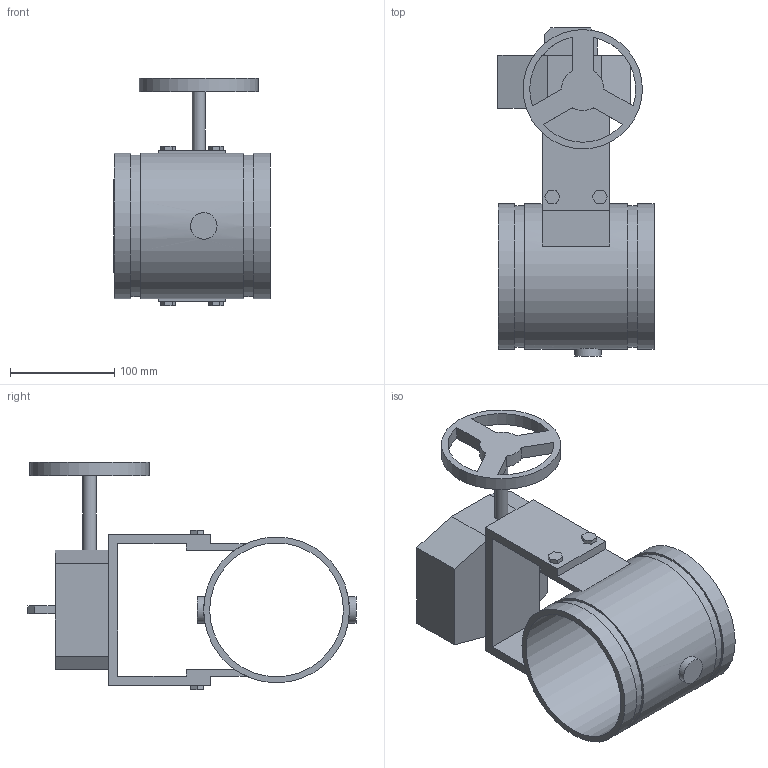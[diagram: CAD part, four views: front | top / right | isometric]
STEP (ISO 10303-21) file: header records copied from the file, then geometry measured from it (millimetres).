
FILE_DESCRIPTION(/* description */ ('VIC FIRELOCK BUTTERFLY VALVE SERIES 707 W/ WEATHERPROOF ACTUATOR FOR 300 PSI','CAx-IF Rec.Pracs.---Representation and Presentation of Product Manufacturing Information (PMI)---4.0---2014-10-13'),/* implementation_level */ '2;1');
FILE_NAME(/* name */ 'C:\Users\Vjadhav\AppData\Roaming\Autodesk\ApplicationPlugins\Back Up\Victaulic_FP-FireLock_Valve Butterfly_Series 707 (OGS)-Closed\Victaulic_FP-FireLock_Valve Butterfly_Series 707 (OGS)-Closed_05.0 (139.7) (125).stp',/* time_stamp */ '2020-07-22T11:31:31+05:00',/* author */ ('kkamble'),/* organization */ ('Victaulic'),/* preprocessor_version */ 'ST-DEVELOPER v17.2',/* originating_system */ 'Autodesk Inventor 2019',/* authorisation */ '');
FILE_SCHEMA (('AP242_MANAGED_MODEL_BASED_3D_ENGINEERING_MIM_LF { 1 0 10303 442 1 1 4 }'));
Length unit declared in the file: inch
Products named in the file (1): 707-05.0 (139.7)
Bounding box: 149.61 x 314.45 x 217.68 mm (x, y, z)
Volume: 1360163.3 mm3; surface area: 254697.7 mm2
Topology: 1 solids, 1 shells, 95 faces, 254 edges, 173 vertices
Faces by surface type: plane 79, cylinder 16
Full cylindrical faces by diameter (mm): 12.624 x1, 25.4 x2, 114.3 x1, 128.194 x1, 135.484 x2, 139.7 x3
Entity records: 3306 total; most frequent: CARTESIAN_POINT 609, DIRECTION 515, ORIENTED_EDGE 508, EDGE_CURVE 254, LINE 201, VECTOR 201, VERTEX_POINT 173, AXIS2_PLACEMENT_3D 157
